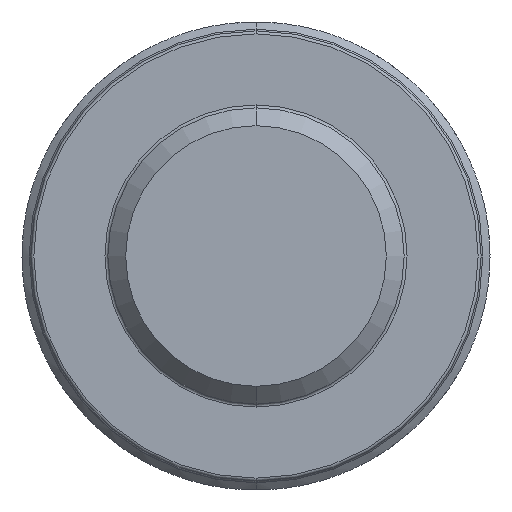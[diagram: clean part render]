
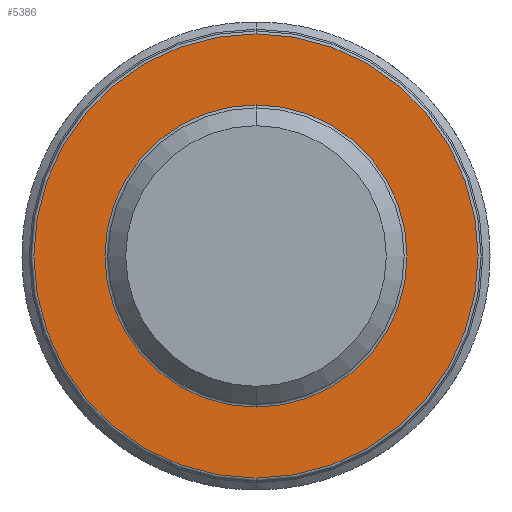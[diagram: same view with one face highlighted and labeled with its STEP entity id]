
A CAD part, front view. The second image highlights one B-rep face of the part: STEP entity #5386.
In plain terms, the highlighted planar face has unit normal (0, -1, 0).
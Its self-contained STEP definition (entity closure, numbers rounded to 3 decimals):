
#108 = CARTESIAN_POINT ( 'NONE',  ( 0., -10., -7.5 ) ) ;
#123 = CARTESIAN_POINT ( 'NONE',  ( 0., -10., 7.5 ) ) ;
#246 = VERTEX_POINT ( 'NONE', #123 ) ;
#326 = ORIENTED_EDGE ( 'NONE', *, *, #1592, .T. ) ;
#343 = PLANE ( 'NONE',  #3299 ) ;
#515 = CARTESIAN_POINT ( 'NONE',  ( 0., -10., 0. ) ) ;
#522 = FACE_BOUND ( 'NONE', #5085, .T. ) ;
#952 = VERTEX_POINT ( 'NONE', #4967 ) ;
#1006 = EDGE_CURVE ( 'NONE', #6035, #246, #1433, .T. ) ;
#1099 = DIRECTION ( 'NONE',  ( 0., 0., -1. ) ) ;
#1433 = CIRCLE ( 'NONE', #6404, 7.5 ) ;
#1592 = EDGE_CURVE ( 'NONE', #246, #6035, #2664, .T. ) ;
#1790 = FACE_OUTER_BOUND ( 'NONE', #5753, .T. ) ;
#1904 = AXIS2_PLACEMENT_3D ( 'NONE', #4737, #3584, #4256 ) ;
#2081 = ORIENTED_EDGE ( 'NONE', *, *, #1006, .T. ) ;
#2205 = ORIENTED_EDGE ( 'NONE', *, *, #7577, .T. ) ;
#2412 = DIRECTION ( 'NONE',  ( 0., 0., -1. ) ) ;
#2447 = DIRECTION ( 'NONE',  ( 0., -1., 0. ) ) ;
#2456 = DIRECTION ( 'NONE',  ( 0., -1., 0. ) ) ;
#2664 = CIRCLE ( 'NONE', #5742, 7.5 ) ;
#3007 = DIRECTION ( 'NONE',  ( 0., 0., -1. ) ) ;
#3299 = AXIS2_PLACEMENT_3D ( 'NONE', #5569, #6929, #6289 ) ;
#3377 = EDGE_CURVE ( 'NONE', #952, #8043, #7406, .T. ) ;
#3483 = AXIS2_PLACEMENT_3D ( 'NONE', #5616, #4813, #2412 ) ;
#3584 = DIRECTION ( 'NONE',  ( 0., 1., 0. ) ) ;
#4256 = DIRECTION ( 'NONE',  ( 0., 0., -1. ) ) ;
#4453 = ORIENTED_EDGE ( 'NONE', *, *, #3377, .T. ) ;
#4737 = CARTESIAN_POINT ( 'NONE',  ( 0., -10., 0. ) ) ;
#4813 = DIRECTION ( 'NONE',  ( 0., 1., 0. ) ) ;
#4967 = CARTESIAN_POINT ( 'NONE',  ( 0., -10., -5.1 ) ) ;
#5085 = EDGE_LOOP ( 'NONE', ( #4453, #2205 ) ) ;
#5386 = ADVANCED_FACE ( 'NONE', ( #522, #1790 ), #343, .T. ) ;
#5569 = CARTESIAN_POINT ( 'NONE',  ( 5., -10., 0. ) ) ;
#5616 = CARTESIAN_POINT ( 'NONE',  ( 0., -10., 0. ) ) ;
#5742 = AXIS2_PLACEMENT_3D ( 'NONE', #515, #2456, #3007 ) ;
#5753 = EDGE_LOOP ( 'NONE', ( #2081, #326 ) ) ;
#5772 = CARTESIAN_POINT ( 'NONE',  ( 0., -10., 0. ) ) ;
#6035 = VERTEX_POINT ( 'NONE', #108 ) ;
#6289 = DIRECTION ( 'NONE',  ( 0., 0., -1. ) ) ;
#6404 = AXIS2_PLACEMENT_3D ( 'NONE', #5772, #2447, #1099 ) ;
#6450 = CIRCLE ( 'NONE', #3483, 5.1 ) ;
#6929 = DIRECTION ( 'NONE',  ( 0., -1., 0. ) ) ;
#7406 = CIRCLE ( 'NONE', #1904, 5.1 ) ;
#7577 = EDGE_CURVE ( 'NONE', #8043, #952, #6450, .T. ) ;
#8043 = VERTEX_POINT ( 'NONE', #8350 ) ;
#8350 = CARTESIAN_POINT ( 'NONE',  ( 0., -10., 5.1 ) ) ;
